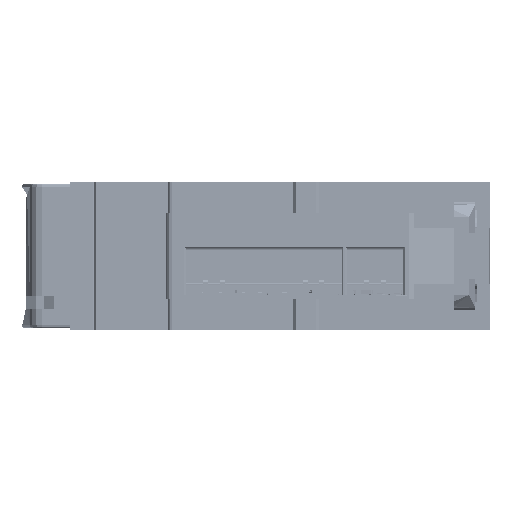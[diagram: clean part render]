
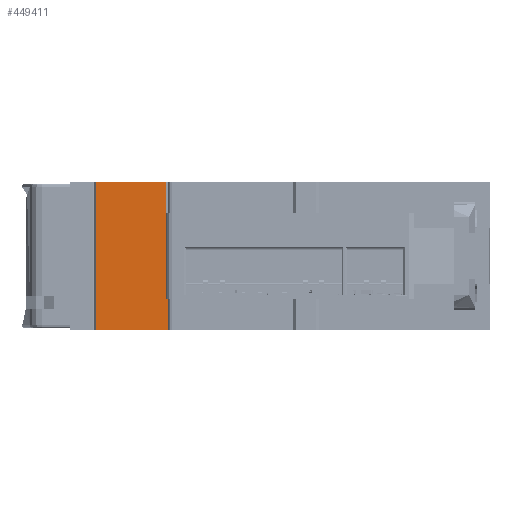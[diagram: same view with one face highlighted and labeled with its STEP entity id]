
A CAD part, left-side view. The second image highlights one B-rep face of the part: STEP entity #449411.
In plain terms, the highlighted planar face has unit normal (-1, 0, 0).
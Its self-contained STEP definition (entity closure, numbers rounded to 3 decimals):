
#20414 = LINE ( 'NONE', #111662, #559643 ) ;
#25073 = CARTESIAN_POINT ( 'NONE',  ( -22.5, -0.4, -11.25 ) ) ;
#33116 = VERTEX_POINT ( 'NONE', #401194 ) ;
#45330 = EDGE_CURVE ( 'NONE', #33116, #880095, #571761, .T. ) ;
#55564 = ORIENTED_EDGE ( 'NONE', *, *, #538329, .F. ) ;
#56154 = VECTOR ( 'NONE', #720046, 1000. ) ;
#63346 = ORIENTED_EDGE ( 'NONE', *, *, #45330, .F. ) ;
#80023 = VECTOR ( 'NONE', #113374, 1000. ) ;
#111662 = CARTESIAN_POINT ( 'NONE',  ( -22.5, 0., -11.25 ) ) ;
#113374 = DIRECTION ( 'NONE',  ( 0., 0., -1. ) ) ;
#113682 = LINE ( 'NONE', #592161, #231185 ) ;
#127766 = EDGE_CURVE ( 'NONE', #33116, #144202, #20414, .T. ) ;
#144202 = VERTEX_POINT ( 'NONE', #25073 ) ;
#150940 = VERTEX_POINT ( 'NONE', #246057 ) ;
#159939 = LINE ( 'NONE', #627803, #862836 ) ;
#178233 = CARTESIAN_POINT ( 'NONE',  ( -22.5, 10.705, 11.25 ) ) ;
#179150 = DIRECTION ( 'NONE',  ( 0., 0., -1. ) ) ;
#185933 = ORIENTED_EDGE ( 'NONE', *, *, #411821, .F. ) ;
#209633 = VERTEX_POINT ( 'NONE', #828595 ) ;
#231185 = VECTOR ( 'NONE', #464237, 1000. ) ;
#246057 = CARTESIAN_POINT ( 'NONE',  ( -22.5, -0.4, -6.65 ) ) ;
#252058 = CARTESIAN_POINT ( 'NONE',  ( -22.5, 0., 39. ) ) ;
#325167 = VERTEX_POINT ( 'NONE', #933435 ) ;
#327415 = DIRECTION ( 'NONE',  ( 0., 0., -1. ) ) ;
#337408 = LINE ( 'NONE', #480325, #80023 ) ;
#338247 = DIRECTION ( 'NONE',  ( 1., 0., 0. ) ) ;
#346948 = VECTOR ( 'NONE', #641114, 1000. ) ;
#392129 = EDGE_CURVE ( 'NONE', #967597, #209633, #856196, .T. ) ;
#401194 = CARTESIAN_POINT ( 'NONE',  ( -22.5, 10.705, -11.25 ) ) ;
#411821 = EDGE_CURVE ( 'NONE', #325167, #150940, #113682, .T. ) ;
#413558 = CARTESIAN_POINT ( 'NONE',  ( -22.5, 0., 11.25 ) ) ;
#426487 = PLANE ( 'NONE',  #871910 ) ;
#435674 = ORIENTED_EDGE ( 'NONE', *, *, #392129, .F. ) ;
#449411 = ADVANCED_FACE ( 'NONE', ( #937296 ), #426487, .F. ) ;
#453449 = ORIENTED_EDGE ( 'NONE', *, *, #127766, .T. ) ;
#464237 = DIRECTION ( 'NONE',  ( 0., -1., 0. ) ) ;
#480325 = CARTESIAN_POINT ( 'NONE',  ( -22.5, -0.4, -6.65 ) ) ;
#481831 = DIRECTION ( 'NONE',  ( 0., -1., 0. ) ) ;
#511996 = EDGE_CURVE ( 'NONE', #209633, #325167, #159939, .T. ) ;
#538329 = EDGE_CURVE ( 'NONE', #150940, #144202, #337408, .T. ) ;
#550278 = ORIENTED_EDGE ( 'NONE', *, *, #511996, .F. ) ;
#559643 = VECTOR ( 'NONE', #481831, 1000. ) ;
#571761 = LINE ( 'NONE', #644854, #56154 ) ;
#592161 = CARTESIAN_POINT ( 'NONE',  ( -22.5, 0., -6.65 ) ) ;
#622210 = VECTOR ( 'NONE', #327415, 1000. ) ;
#627803 = CARTESIAN_POINT ( 'NONE',  ( -22.5, 0., 11.25 ) ) ;
#641114 = DIRECTION ( 'NONE',  ( 0., -1., 0. ) ) ;
#644854 = CARTESIAN_POINT ( 'NONE',  ( -22.5, 10.705, 11.25 ) ) ;
#667450 = EDGE_CURVE ( 'NONE', #880095, #967597, #698248, .T. ) ;
#698248 = LINE ( 'NONE', #854129, #346948 ) ;
#720046 = DIRECTION ( 'NONE',  ( 0., 0., 1. ) ) ;
#727588 = CARTESIAN_POINT ( 'NONE',  ( -22.5, 0., 11.25 ) ) ;
#828595 = CARTESIAN_POINT ( 'NONE',  ( -22.5, 0., 0. ) ) ;
#854129 = CARTESIAN_POINT ( 'NONE',  ( -22.5, 0., 11.25 ) ) ;
#856196 = LINE ( 'NONE', #252058, #622210 ) ;
#862074 = DIRECTION ( 'NONE',  ( 0., 1., 0. ) ) ;
#862836 = VECTOR ( 'NONE', #179150, 1000. ) ;
#871910 = AXIS2_PLACEMENT_3D ( 'NONE', #727588, #338247, #862074 ) ;
#880095 = VERTEX_POINT ( 'NONE', #178233 ) ;
#928186 = EDGE_LOOP ( 'NONE', ( #942544, #63346, #453449, #55564, #185933, #550278, #435674 ) ) ;
#933435 = CARTESIAN_POINT ( 'NONE',  ( -22.5, 0., -6.65 ) ) ;
#937296 = FACE_OUTER_BOUND ( 'NONE', #928186, .T. ) ;
#942544 = ORIENTED_EDGE ( 'NONE', *, *, #667450, .F. ) ;
#967597 = VERTEX_POINT ( 'NONE', #413558 ) ;
